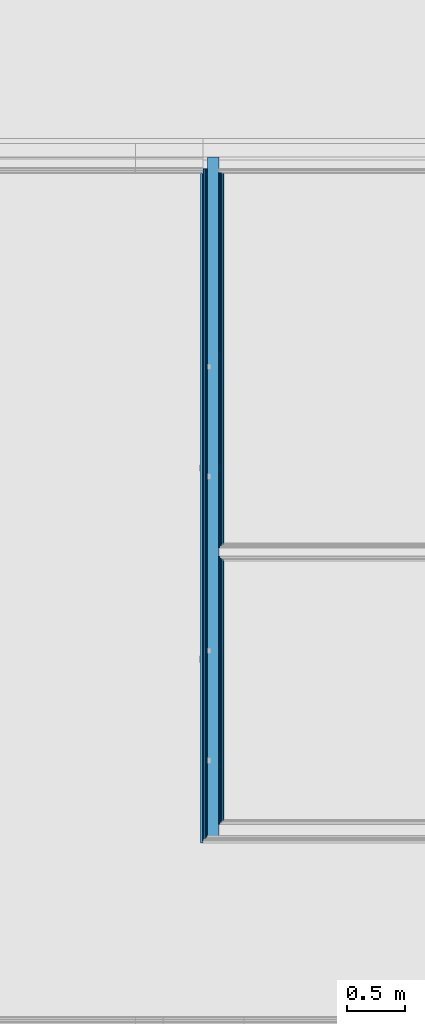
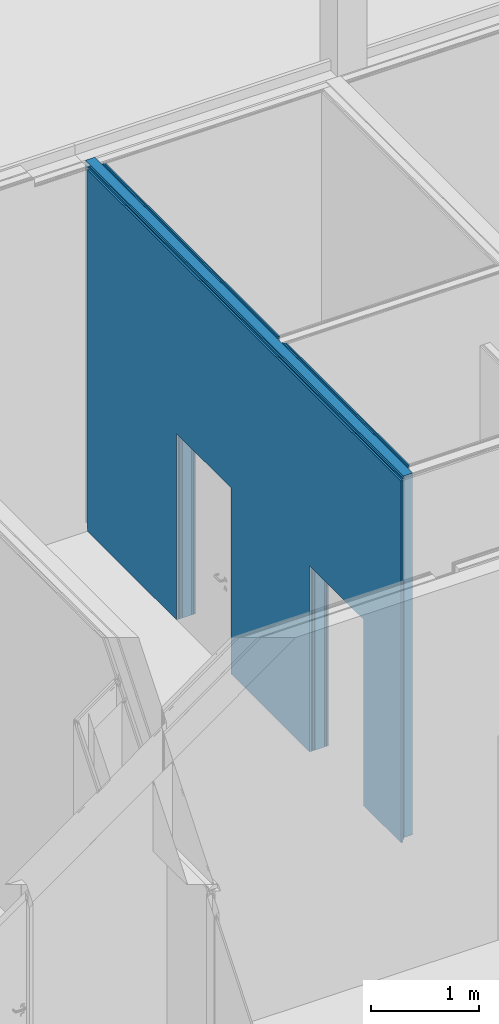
# One storey, part 123 of 260: 8 building element parts, 2 openings, 1 element without a shape of its own.
"""IFC2X3 building model written with IfcOpenShell, lengths in millimetres."""

from ifc_helpers import new_model, entity, si_unit, converted_unit, derived_unit, money_unit, direction, frame, origin_with_axes, place, context, subcontext, project, spatial, faceted_brep, material, type_object, element, aggregate, save


model = new_model("IFC2X3")

# Units and contexts
model_context = context("Model", 3, precision=0.01, world=origin_with_axes(), true_north=direction((0.0, 1.0)))
body_context = subcontext(model_context, "Body", "Model", "MODEL_VIEW")
ifc_project = project(units=[si_unit("LENGTHUNIT", "METRE", prefix="MILLI"), si_unit("AREAUNIT", "SQUARE_METRE"), si_unit("VOLUMEUNIT", "CUBIC_METRE"), converted_unit("PLANEANGLEUNIT", "DEGREE", entity("IfcPlaneAngleMeasure", 0.0174532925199), si_unit("PLANEANGLEUNIT", "RADIAN"), dimensions=[0, 0, 0, 0, 0, 0, 0]), money_unit("EUR"), converted_unit("TIMEUNIT", "Year", entity("IfcTimeMeasure", 31556926.0), si_unit("TIMEUNIT", "SECOND"), dimensions=[0, 0, 1, 0, 0, 0, 0]), si_unit("MASSUNIT", "GRAM", prefix="KILO"), si_unit("THERMODYNAMICTEMPERATUREUNIT", "DEGREE_CELSIUS"), si_unit("LUMINOUSINTENSITYUNIT", "LUMEN"), si_unit("ENERGYUNIT", "JOULE", prefix="MEGA"), derived_unit("THERMALCONDUCTANCEUNIT", [(si_unit("POWERUNIT", "WATT"), 1), (si_unit("LENGTHUNIT", "METRE"), -1), (si_unit("THERMODYNAMICTEMPERATUREUNIT", "KELVIN"), -1)]), derived_unit("SPECIFICHEATCAPACITYUNIT", [(si_unit("ENERGYUNIT", "JOULE"), 1), (si_unit("MASSUNIT", "GRAM", prefix="KILO"), -1), (si_unit("THERMODYNAMICTEMPERATUREUNIT", "KELVIN"), -1)]), derived_unit("MASSDENSITYUNIT", [(si_unit("MASSUNIT", "GRAM", prefix="KILO"), 1), (si_unit("VOLUMEUNIT", "CUBIC_METRE"), -1)])], contexts=[model_context])

# Site, building, storey
site_placement = place(None, origin_with_axes())
site = spatial("IfcSite", under=ifc_project, at=site_placement, Name="Kolde pst 67a", CompositionType="ELEMENT")
building_placement = place(site_placement, origin_with_axes())
building = spatial("IfcBuilding", under=site, at=building_placement, Name="Riigigümnaasium", CompositionType="ELEMENT")
storey_placement = place(building_placement, origin_with_axes())
storey = spatial("IfcBuildingStorey", under=building, at=storey_placement, Name="1. korrus", CompositionType="ELEMENT", Elevation=0.0)

# Wall, openings, building element parts
wall_type = type_object("IfcWallType", Name="SS-PK-10/2_vill100+dold+plaat 200", PredefinedType="NOTDEFINED")
wall_placement = place(storey_placement, frame((6923.47678776, 67089.9971161, 0.0), z_axis=(0.0, 0.0, 1.0), x_axis=(-1.68819892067e-07, -1.0, 0.0)))
wall = element("IfcWall", 1, at=wall_placement, inside=storey, type_object=wall_type, Name="Sisesein")
opening_1_placement = place(wall_placement, frame((4746.00184638, 0.0, 0.0), z_axis=(0.0, 0.0, 1.0), x_axis=(1.0, 0.0, 0.0)))
element("IfcOpeningElement", 2, at=opening_1_placement, cuts=wall, Name="Siseuks", context=body_context, shape_type="Brep", body=[
    faceted_brep([(500.0, -400.0, 2100.0), (500.0, -400.0, 0.0), (500.0, 200.0, 0.0), (500.0, 200.0, 2100.0), (-500.0, -400.0, 2100.0), (-500.0, -400.0, 0.0), (-500.0, 200.0, 0.0), (-500.0, 200.0, 2100.0)], [[[0, 1, 2, 3]], [[0, 4, 5, 1]], [[1, 5, 6, 2]], [[3, 2, 6, 7]], [[4, 0, 3, 7]], [[5, 4, 7, 6]]]),
])
opening_2_placement = place(wall_placement, frame((2289.98301452, 0.0, 0.0), z_axis=(0.0, 0.0, 1.0), x_axis=(1.0, 0.0, 0.0)))
element("IfcOpeningElement", 3, at=opening_2_placement, cuts=wall, Name="Siseuks", context=body_context, shape_type="Brep", body=[
    faceted_brep([(-500.0, 200.0, 2100.0), (-500.0, 200.0, 0.0), (-500.0, -400.0, 0.0), (-500.0, -400.0, 2100.0), (500.0, 200.0, 2100.0), (500.0, 200.0, 0.0), (500.0, -400.0, 0.0), (500.0, -400.0, 2100.0)], [[[0, 1, 2, 3]], [[0, 4, 5, 1]], [[1, 5, 6, 2]], [[3, 2, 6, 7]], [[4, 0, 3, 7]], [[5, 4, 7, 6]]]),
])
ifc_material_1 = material(Name="_VIIMISTLUSKIHT - viimistlus vastavalt SA osale")
building_element_part_1_placement = place(wall_placement, origin_with_axes())
building_element_part_1 = element("IfcBuildingElementPart", 4, at=building_element_part_1_placement, material=ifc_material_1, Name="_VIIMISTLUSKIHT - viimistlus vastavalt SA osale", context=body_context, shape_type="Brep", body=[
    faceted_brep([(2789.98301452, 0.0, 0.0), (2789.98301452, 0.0, 2100.0), (1789.98301452, 0.0, 2100.0), (1789.98301452, 0.0, 0.0), (139.999964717, 0.0, 0.0), (139.999964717, 0.0, 4080.0), (3354.98297924, 0.0, 4080.0), (3354.98297924, 0.0, 0.0), (2789.98301452, -15.0, 0.0), (2789.98301452, -15.0, 2100.0), (1789.98301452, -15.0, 2100.0), (1789.98301452, -15.0, 0.0), (139.999967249, -15.0, 0.0), (139.999967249, -15.0, 4080.0), (3354.98298177, -15.0, 4080.0), (3354.98298177, -15.0, 0.0)], [[[0, 1, 2, 3, 4, 5, 6, 7]], [[1, 0, 8, 9]], [[2, 1, 9, 10]], [[3, 2, 10, 11]], [[3, 11, 12, 4]], [[5, 4, 12, 13]], [[5, 13, 14, 6]], [[14, 15, 7, 6]], [[8, 0, 7, 15]], [[9, 8, 15, 14, 13, 12, 11, 10]]]),
    faceted_brep([(5246.00184638, 0.0, 0.0), (5246.00184638, 0.0, 2100.0), (4246.00184638, 0.0, 2100.0), (4246.00184638, 0.0, 0.0), (3479.98297924, 0.0, 0.0), (3479.98297924, 0.0, 4080.0), (5749.45675555, 0.0, 4080.0), (5749.45675555, 0.0, 0.0), (5246.00184638, -15.0, 0.0), (5246.00184638, -15.0, 2100.0), (4246.00184638, -15.0, 2100.0), (4246.00184638, -15.0, 0.0), (3479.98298177, -15.0, 0.0), (3479.98298177, -15.0, 4080.0), (5749.45675808, -15.0, 4080.0), (5749.45675808, -15.0, 0.0)], [[[0, 1, 2, 3, 4, 5, 6, 7]], [[1, 0, 8, 9]], [[2, 1, 9, 10]], [[3, 2, 10, 11]], [[3, 11, 12, 4]], [[5, 4, 12, 13]], [[5, 13, 14, 6]], [[14, 15, 7, 6]], [[8, 0, 7, 15]], [[9, 8, 15, 14, 13, 12, 11, 10]]]),
])
ifc_material_2 = material(Name="_PLAATMATERJAL - kipsplaat veekindel")
building_element_part_2_placement = place(wall_placement, origin_with_axes())
building_element_part_2 = element("IfcBuildingElementPart", 5, at=building_element_part_2_placement, material=ifc_material_2, Name="_PLAATMATERJAL - kipsplaat veekindel", context=body_context, shape_type="Brep", body=[
    faceted_brep([(2789.98301452, -15.0, 0.0), (2789.98301452, -15.0, 2100.0), (1789.98301452, -15.0, 2100.0), (1789.98301452, -15.0, 0.0), (129.999967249, -15.0, 0.0), (129.999967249, -15.0, 4080.0), (3367.48298177, -15.0, 4080.0), (3367.48298177, -15.0, 0.0), (2789.98301452, -27.5, 0.0), (2789.98301452, -27.5, 2100.0), (1789.98301452, -27.5, 2100.0), (1789.98301452, -27.5, 0.0), (129.999969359, -27.5, 0.0), (129.999969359, -27.5, 4080.0), (3367.48298388, -27.5, 4080.0), (3367.48298388, -27.5, 0.0)], [[[0, 1, 2, 3, 4, 5, 6, 7]], [[1, 0, 8, 9]], [[2, 1, 9, 10]], [[3, 2, 10, 11]], [[3, 11, 12, 4]], [[5, 4, 12, 13]], [[5, 13, 14, 6]], [[14, 15, 7, 6]], [[8, 0, 7, 15]], [[9, 8, 15, 14, 13, 12, 11, 10]]]),
    faceted_brep([(5246.00184638, -15.0, 0.0), (5246.00184638, -15.0, 2100.0), (4246.00184638, -15.0, 2100.0), (4246.00184638, -15.0, 0.0), (3467.48298177, -15.0, 0.0), (3467.48298177, -15.0, 4080.0), (5761.95675808, -15.0, 4080.0), (5761.95675808, -15.0, 0.0), (5246.00184638, -27.5, 0.0), (5246.00184638, -27.5, 2100.0), (4246.00184638, -27.5, 2100.0), (4246.00184638, -27.5, 0.0), (3467.48298388, -27.5, 0.0), (3467.48298388, -27.5, 4080.0), (5761.9567602, -27.5, 4080.0), (5761.9567602, -27.5, 0.0)], [[[0, 1, 2, 3, 4, 5, 6, 7]], [[1, 0, 8, 9]], [[2, 1, 9, 10]], [[3, 2, 10, 11]], [[3, 11, 12, 4]], [[5, 4, 12, 13]], [[5, 13, 14, 6]], [[14, 15, 7, 6]], [[8, 0, 7, 15]], [[9, 8, 15, 14, 13, 12, 11, 10]]]),
])
building_element_part_3_placement = place(wall_placement, origin_with_axes())
building_element_part_3 = element("IfcBuildingElementPart", 6, at=building_element_part_3_placement, material=ifc_material_2, Name="_PLAATMATERJAL - kipsplaat veekindel", context=body_context, shape_type="Brep", body=[
    faceted_brep([(2789.98301452, -27.5, 0.0), (2789.98301452, -27.5, 2100.0), (1789.98301452, -27.5, 2100.0), (1789.98301452, -27.5, 0.0), (129.999969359, -27.5, 0.0), (129.999969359, -27.5, 4080.0), (3379.98298388, -27.5, 4080.0), (3379.98298388, -27.5, 0.0), (2789.98301452, -40.0, 0.0), (2789.98301452, -40.0, 2100.0), (1789.98301452, -40.0, 2100.0), (1789.98301452, -40.0, 0.0), (129.999971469, -40.0, 0.0), (129.999971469, -40.0, 4080.0), (3379.98298599, -40.0, 4080.0), (3379.98298599, -40.0, 0.0)], [[[0, 1, 2, 3, 4, 5, 6, 7]], [[1, 0, 8, 9]], [[2, 1, 9, 10]], [[3, 2, 10, 11]], [[3, 11, 12, 4]], [[5, 4, 12, 13]], [[5, 13, 14, 6]], [[14, 15, 7, 6]], [[8, 0, 7, 15]], [[9, 8, 15, 14, 13, 12, 11, 10]]]),
    faceted_brep([(5246.00184638, -27.5, 0.0), (5246.00184638, -27.5, 2100.0), (4246.00184638, -27.5, 2100.0), (4246.00184638, -27.5, 0.0), (3454.98298388, -27.5, 0.0), (3454.98298388, -27.5, 4080.0), (5774.4567602, -27.5, 4080.0), (5774.4567602, -27.5, 0.0), (5246.00184638, -40.0, 0.0), (5246.00184638, -40.0, 2100.0), (4246.00184638, -40.0, 2100.0), (4246.00184638, -40.0, 0.0), (3454.98298599, -40.0, 0.0), (3454.98298599, -40.0, 4080.0), (5774.45676231, -40.0, 4080.0), (5774.45676231, -40.0, 0.0)], [[[0, 1, 2, 3, 4, 5, 6, 7]], [[1, 0, 8, 9]], [[2, 1, 9, 10]], [[3, 2, 10, 11]], [[3, 11, 12, 4]], [[5, 4, 12, 13]], [[5, 13, 14, 6]], [[14, 15, 7, 6]], [[8, 0, 7, 15]], [[9, 8, 15, 14, 13, 12, 11, 10]]]),
])
ifc_material_3 = material(Name="_KARKASS - puitpruss 100x50mm vertikaalne, samm 600mm, vahel mineraalvill, helineeldetegur αw = 1.0, ISOVER ACOUSTIC 100mm või samaväärne")
building_element_part_4_placement = place(wall_placement, origin_with_axes())
building_element_part_4 = element("IfcBuildingElementPart", 7, at=building_element_part_4_placement, material=ifc_material_3, Name="_KARKASS - puitpruss 100x50mm vertikaalne, samm 600mm, vahel mineraalvill, helineeldetegur αw = 1.0, ISOVER ACOUSTIC 100mm või samaväärne", context=body_context, shape_type="Brep", body=[
    faceted_brep([(2789.98301452, -40.0, 0.0), (2789.98301452, -40.0, 2100.0), (1789.98301452, -40.0, 2100.0), (1789.98301452, -40.0, 0.0), (-2.85305645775e-05, -40.0, 0.0), (-2.85305645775e-05, -40.0, 4080.0), (5874.45676231, -40.0, 4080.0), (5874.45676231, -40.0, 0.0), (5246.00184638, -40.0, 0.0), (5246.00184638, -40.0, 2100.0), (4246.00184638, -40.0, 2100.0), (4246.00184638, -40.0, 0.0), (2789.98301452, -140.0, 0.0), (2789.98301452, -140.0, 2100.0), (1789.98301452, -140.0, 2100.0), (1789.98301452, -140.0, 0.0), (-1.16485807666e-05, -140.0, 0.0), (-1.16485807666e-05, -140.0, 4080.0), (5874.45677919, -140.0, 4080.0), (5874.45677919, -140.0, 0.0), (5246.00184638, -140.0, 0.0), (5246.00184638, -140.0, 2100.0), (4246.00184638, -140.0, 2100.0), (4246.00184638, -140.0, 0.0)], [[[0, 1, 2, 3, 4, 5, 6, 7, 8, 9, 10, 11]], [[1, 0, 12, 13]], [[2, 1, 13, 14]], [[3, 2, 14, 15]], [[3, 15, 16, 4]], [[4, 16, 17, 5]], [[17, 18, 6, 5]], [[19, 7, 6, 18]], [[8, 7, 19, 20]], [[8, 20, 21, 9]], [[9, 21, 22, 10]], [[10, 22, 23, 11]], [[12, 0, 11, 23]], [[13, 12, 23, 22, 21, 20, 19, 18, 17, 16, 15, 14]]]),
])
ifc_material_4 = material(Name="_PLAATMATERJAL - tuletõkkekipsplaat, Knauf Red GKF või samaväärne")
building_element_part_5_placement = place(wall_placement, origin_with_axes())
building_element_part_5 = element("IfcBuildingElementPart", 8, at=building_element_part_5_placement, material=ifc_material_4, Name="_PLAATMATERJAL - tuletõkkekipsplaat, Knauf Red GKF või samaväärne", context=body_context, shape_type="Brep", body=[
    faceted_brep([(2789.98301452, -140.0, 0.0), (2789.98301452, -140.0, 2100.0), (1789.98301452, -140.0, 2100.0), (1789.98301452, -140.0, 0.0), (99.9999883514, -140.0, 0.0), (99.9999883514, -140.0, 4080.0), (5889.45677919, -140.0, 4080.0), (5889.45677919, -140.0, 0.0), (5246.00184638, -140.0, 0.0), (5246.00184638, -140.0, 2100.0), (4246.00184638, -140.0, 2100.0), (4246.00184638, -140.0, 0.0), (2789.98301452, -155.0, 0.0), (2789.98301452, -155.0, 2100.0), (1789.98301452, -155.0, 2100.0), (1789.98301452, -155.0, 0.0), (99.9999908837, -155.0, 0.0), (99.9999908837, -155.0, 4080.0), (5889.45678172, -155.0, 4080.0), (5889.45678172, -155.0, 0.0), (5246.00184638, -155.0, 0.0), (5246.00184638, -155.0, 2100.0), (4246.00184638, -155.0, 2100.0), (4246.00184638, -155.0, 0.0)], [[[0, 1, 2, 3, 4, 5, 6, 7, 8, 9, 10, 11]], [[1, 0, 12, 13]], [[2, 1, 13, 14]], [[3, 2, 14, 15]], [[3, 15, 16, 4]], [[4, 16, 17, 5]], [[17, 18, 6, 5]], [[19, 7, 6, 18]], [[8, 7, 19, 20]], [[8, 20, 21, 9]], [[9, 21, 22, 10]], [[10, 22, 23, 11]], [[12, 0, 11, 23]], [[13, 12, 23, 22, 21, 20, 19, 18, 17, 16, 15, 14]]]),
])
building_element_part_6_placement = place(wall_placement, origin_with_axes())
building_element_part_6 = element("IfcBuildingElementPart", 9, at=building_element_part_6_placement, material=ifc_material_4, Name="_PLAATMATERJAL - tuletõkkekipsplaat, Knauf Red GKF või samaväärne", context=body_context, shape_type="Brep", body=[
    faceted_brep([(2789.98301452, -155.0, 0.0), (2789.98301452, -155.0, 2100.0), (1789.98301452, -155.0, 2100.0), (1789.98301452, -155.0, 0.0), (99.9999908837, -155.0, 0.0), (99.9999908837, -155.0, 4080.0), (5904.45678172, -155.0, 4080.0), (5904.45678172, -155.0, 0.0), (5246.00184638, -155.0, 0.0), (5246.00184638, -155.0, 2100.0), (4246.00184638, -155.0, 2100.0), (4246.00184638, -155.0, 0.0), (2789.98301452, -170.0, 0.0), (2789.98301452, -170.0, 2100.0), (1789.98301452, -170.0, 2100.0), (1789.98301452, -170.0, 0.0), (99.999993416, -170.0, 0.0), (99.999993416, -170.0, 4080.0), (5904.45678425, -170.0, 4080.0), (5904.45678425, -170.0, 0.0), (5246.00184638, -170.0, 0.0), (5246.00184638, -170.0, 2100.0), (4246.00184638, -170.0, 2100.0), (4246.00184638, -170.0, 0.0)], [[[0, 1, 2, 3, 4, 5, 6, 7, 8, 9, 10, 11]], [[1, 0, 12, 13]], [[2, 1, 13, 14]], [[3, 2, 14, 15]], [[3, 15, 16, 4]], [[4, 16, 17, 5]], [[17, 18, 6, 5]], [[19, 7, 6, 18]], [[8, 7, 19, 20]], [[8, 20, 21, 9]], [[9, 21, 22, 10]], [[10, 22, 23, 11]], [[12, 0, 11, 23]], [[13, 12, 23, 22, 21, 20, 19, 18, 17, 16, 15, 14]]]),
])
ifc_material_5 = material(Name="_KARKASS - eriprofiilkinnitus vastavalt sisemisele plaatviimistlusele")
building_element_part_7_placement = place(wall_placement, origin_with_axes())
building_element_part_7 = element("IfcBuildingElementPart", 10, at=building_element_part_7_placement, material=ifc_material_5, Name="_KARKASS - eriprofiilkinnitus vastavalt sisemisele plaatviimistlusele", context=body_context, shape_type="Brep", body=[
    faceted_brep([(2789.98301452, -170.0, 0.0), (2789.98301452, -170.0, 2100.0), (1789.98301452, -170.0, 2100.0), (1789.98301452, -170.0, 0.0), (99.999993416, -170.0, 0.0), (99.999993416, -170.0, 4080.0), (5914.45678425, -170.0, 4080.0), (5914.45678425, -170.0, 0.0), (5246.00184638, -170.0, 0.0), (5246.00184638, -170.0, 2100.0), (4246.00184638, -170.0, 2100.0), (4246.00184638, -170.0, 0.0), (2789.98301452, -180.0, 0.0), (2789.98301452, -180.0, 2100.0), (1789.98301452, -180.0, 2100.0), (1789.98301452, -180.0, 0.0), (99.9999951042, -180.0, 0.0), (99.9999951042, -180.0, 4080.0), (5914.45678594, -180.0, 4080.0), (5914.45678594, -180.0, 0.0), (5246.00184638, -180.0, 0.0), (5246.00184638, -180.0, 2100.0), (4246.00184638, -180.0, 2100.0), (4246.00184638, -180.0, 0.0)], [[[0, 1, 2, 3, 4, 5, 6, 7, 8, 9, 10, 11]], [[1, 0, 12, 13]], [[2, 1, 13, 14]], [[3, 2, 14, 15]], [[3, 15, 16, 4]], [[4, 16, 17, 5]], [[17, 18, 6, 5]], [[19, 7, 6, 18]], [[8, 7, 19, 20]], [[8, 20, 21, 9]], [[9, 21, 22, 10]], [[10, 22, 23, 11]], [[12, 0, 11, 23]], [[13, 12, 23, 22, 21, 20, 19, 18, 17, 16, 15, 14]]]),
])
building_element_part_8_placement = place(wall_placement, origin_with_axes())
building_element_part_8 = element("IfcBuildingElementPart", 11, at=building_element_part_8_placement, material=ifc_material_1, Name="_VIIMISTLUSKIHT - viimistlus vastavalt SA osale", context=body_context, shape_type="Brep", body=[
    faceted_brep([(2789.98301452, -180.0, 0.0), (2789.98301452, -180.0, 2100.0), (1789.98301452, -180.0, 2100.0), (1789.98301452, -180.0, 0.0), (139.999995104, -180.0, 0.0), (139.999995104, -180.0, 4080.0), (5934.45678594, -180.0, 4080.0), (5934.45678594, -180.0, 0.0), (5246.00184638, -180.0, 0.0), (5246.00184638, -180.0, 2100.0), (4246.00184638, -180.0, 2100.0), (4246.00184638, -180.0, 0.0), (2789.98301452, -200.0, 0.0), (2789.98301452, -200.0, 2100.0), (1789.98301452, -200.0, 2100.0), (1789.98301452, -200.0, 0.0), (139.999998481, -200.0, 0.0), (139.999998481, -200.0, 4080.0), (5934.45678932, -200.0, 4080.0), (5934.45678932, -200.0, 0.0), (5246.00184638, -200.0, 0.0), (5246.00184638, -200.0, 2100.0), (4246.00184638, -200.0, 2100.0), (4246.00184638, -200.0, 0.0)], [[[0, 1, 2, 3, 4, 5, 6, 7, 8, 9, 10, 11]], [[1, 0, 12, 13]], [[2, 1, 13, 14]], [[3, 2, 14, 15]], [[3, 15, 16, 4]], [[4, 16, 17, 5]], [[17, 18, 6, 5]], [[19, 7, 6, 18]], [[8, 7, 19, 20]], [[8, 20, 21, 9]], [[9, 21, 22, 10]], [[10, 22, 23, 11]], [[12, 0, 11, 23]], [[13, 12, 23, 22, 21, 20, 19, 18, 17, 16, 15, 14]]]),
])
aggregate(wall, [building_element_part_1, building_element_part_2, building_element_part_3, building_element_part_4, building_element_part_5, building_element_part_6, building_element_part_7, building_element_part_8])

save(model, "model.ifc")
